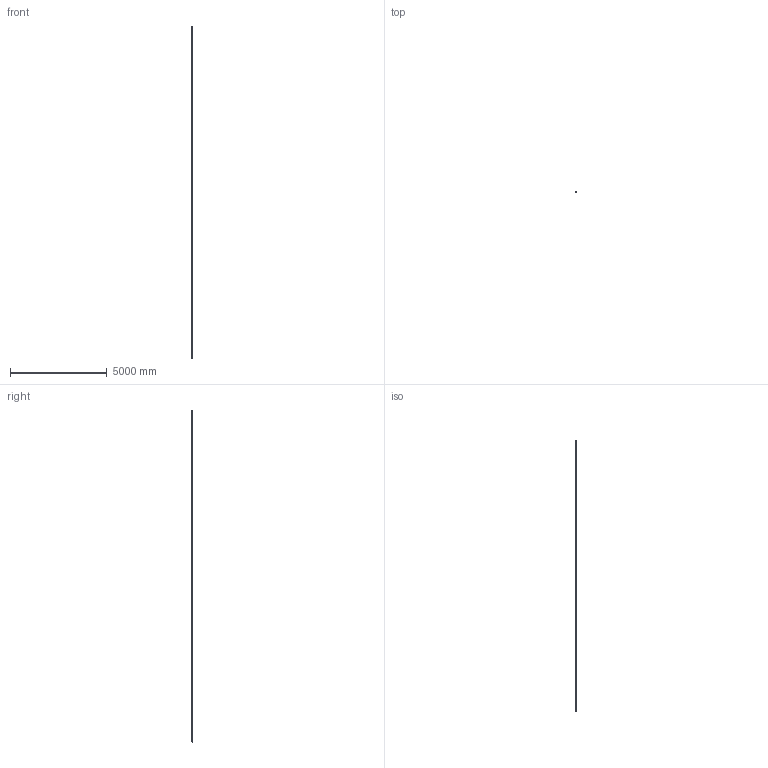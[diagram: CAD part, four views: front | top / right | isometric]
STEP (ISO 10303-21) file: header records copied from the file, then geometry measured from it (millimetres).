
FILE_DESCRIPTION(('Creo Elements/Direct Modeling STEP Export'),'2;1');
FILE_NAME('F-168.stp','2011-11-18T 9:45:48',(''),(''),'Creo Elements/Direct Modeling STEP processor for AP214 (Solid Model)','Creo Elements/Direct Modeling 17.0C 05-Feb-2011 (C) Parametric Technology GmbH','');
FILE_SCHEMA(('AUTOMOTIVE_DESIGN { 1 0 10303 214 1 1 1 1 }'));
Length unit declared in the file: millimetre
Products named in the file (5): Modulos_intermedio_(FL-14).8; Modulo_der_(14E); Modulo_izq_(K).1; CABEZA; F-168
Assembly tree (13 placements, depth 2):
  F-168
    Modulos_intermedio_(FL-14).8  x10
    CABEZA
    Modulo_izq_(K).1
    Modulo_der_(14E)
Bounding box: 51.5 x 87.95 x 17135.6 mm (x, y, z)
Volume: 43627738.4 mm3; surface area: 5014770.5 mm2
Topology: 14 solids, 121 shells, 7463 faces, 20817 edges, 13283 vertices
Faces by surface type: cylinder 3288, plane 2787, cone 580, torus 383, bspline 305, extrusion 110, sphere 10
Entity records: 103790 total; most frequent: CARTESIAN_POINT 32484, ORIENTED_EDGE 15264, DIRECTION 13226, EDGE_CURVE 7626, VERTEX_POINT 4929, AXIS2_PLACEMENT_3D 4662, VECTOR 3902, LINE 3882
